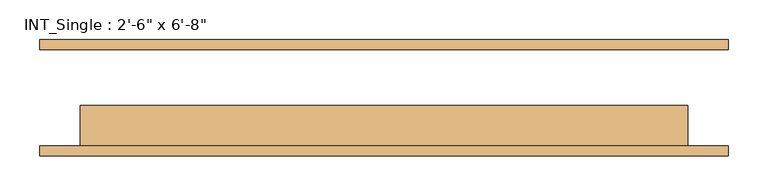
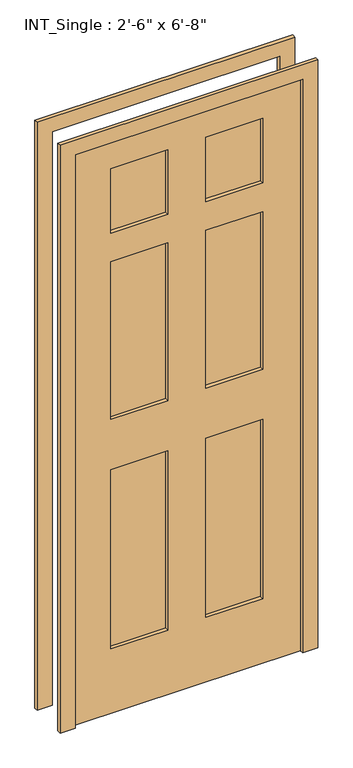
"""IFC4 building model written with IfcOpenShell, lengths in millimetres: door geometry."""

from ifc_helpers import new_model, si_unit, frame, origin, place, context, project, spatial, polyline, outline, extrude, source, transform, mapped, element, save


def door_884c993c(model_context):
    return source(origin(), model_context, "Body", "SweptSolid", [
        extrude(outline(polyline([(0.0, -431.8), (0.0, -381.0), (2032.0, -381.0), (2032.0, 381.0), (0.0, 381.0), (0.0, 431.8), (2082.8, 431.8), (2082.8, -431.8), (0.0, -431.8)])), frame((0.0, 60.325, 0.0), z_axis=(0.0, 1.0, 0.0), x_axis=(0.0, 0.0, 1.0)), (0.0, 0.0, 1.0), 12.7),
        extrude(outline(polyline([(0.0, 431.8), (2082.8, 431.8), (2082.8, -431.8), (0.0, -431.8), (0.0, -381.0), (2032.0, -381.0), (2032.0, 381.0), (0.0, 381.0), (0.0, 431.8)])), frame((0.0, -73.025, 0.0), z_axis=(0.0, 1.0, 0.0), x_axis=(0.0, 0.0, 1.0)), (0.0, 0.0, 1.0), 12.7),
        extrude(outline(polyline([(-63.5, -22.225), (-63.5, -47.625), (-254.0, -47.625), (-254.0, -22.225), (-63.5, -22.225)])), frame((0.0, 0.0, 1701.8), z_axis=(0.0, 0.0, 1.0), x_axis=(1.0, 0.0, 0.0)), (0.0, 0.0, 1.0), 228.6),
        extrude(outline(polyline([(254.0, -22.225), (254.0, -47.625), (63.5, -47.625), (63.5, -22.225), (254.0, -22.225)])), frame((0.0, 0.0, 1701.8), z_axis=(0.0, 0.0, 1.0), x_axis=(1.0, 0.0, 0.0)), (0.0, 0.0, 1.0), 228.6),
        extrude(outline(polyline([(-63.5, -22.225), (-63.5, -47.625), (-254.0, -47.625), (-254.0, -22.225), (-63.5, -22.225)])), frame((0.0, 0.0, 1041.4), z_axis=(0.0, 0.0, 1.0), x_axis=(1.0, 0.0, 0.0)), (0.0, 0.0, 1.0), 558.8),
        extrude(outline(polyline([(254.0, -22.225), (254.0, -47.625), (63.5, -47.625), (63.5, -22.225), (254.0, -22.225)])), frame((0.0, 0.0, 1041.4), z_axis=(0.0, 0.0, 1.0), x_axis=(1.0, 0.0, 0.0)), (0.0, 0.0, 1.0), 558.8),
        extrude(outline(polyline([(-63.5, -22.225), (-63.5, -47.625), (-254.0, -47.625), (-254.0, -22.225), (-63.5, -22.225)])), frame((0.0, 0.0, 228.6), z_axis=(0.0, 0.0, 1.0), x_axis=(1.0, 0.0, 0.0)), (0.0, 0.0, 1.0), 635.0),
        extrude(outline(polyline([(254.0, -22.225), (254.0, -47.625), (63.5, -47.625), (63.5, -22.225), (254.0, -22.225)])), frame((0.0, 0.0, 228.6), z_axis=(0.0, 0.0, 1.0), x_axis=(1.0, 0.0, 0.0)), (0.0, 0.0, 1.0), 635.0),
        extrude(outline(polyline([(2032.0, 381.0), (2032.0, -381.0), (0.0, -381.0), (0.0, 381.0), (2032.0, 381.0)]), holes=[polyline([(1930.4, -63.5), (1701.8, -63.5), (1701.8, -254.0), (1930.4, -254.0), (1930.4, -63.5)]), polyline([(1930.4, 254.0), (1701.8, 254.0), (1701.8, 63.5), (1930.4, 63.5), (1930.4, 254.0)]), polyline([(1600.2, -63.5), (1041.4, -63.5), (1041.4, -254.0), (1600.2, -254.0), (1600.2, -63.5)]), polyline([(1600.2, 254.0), (1041.4, 254.0), (1041.4, 63.5), (1600.2, 63.5), (1600.2, 254.0)]), polyline([(863.6, -63.5), (228.6, -63.5), (228.6, -254.0), (863.6, -254.0), (863.6, -63.5)]), polyline([(863.6, 254.0), (228.6, 254.0), (228.6, 63.5), (863.6, 63.5), (863.6, 254.0)])]), frame((0.0, -60.325, 0.0), z_axis=(0.0, 1.0, 0.0), x_axis=(0.0, 0.0, 1.0)), (0.0, 0.0, 1.0), 50.8),
    ])


if __name__ == "__main__":
    model = new_model("IFC4")
    model_context = context("Model", 3, world=origin())
    ifc_project = project(units=[si_unit("LENGTHUNIT", "METRE", prefix="MILLI")], contexts=[model_context])
    site = spatial("IfcSite", under=ifc_project)
    building = spatial("IfcBuilding", under=site)
    placement = place(None, origin())
    door_shape = door_884c993c(model_context)
    element("IfcDoor", 1, ObjectType="INT_Single : 2'-6\" x 6'-8\"", at=placement, inside=building, context=model_context, shape_type="MappedRepresentation", body=[
        mapped(door_shape, transform((0.0, 0.0, 0.0), x_axis=(1.0, 0.0, 0.0), y_axis=(0.0, 1.0, 0.0), z_axis=(0.0, 0.0, 1.0))),
    ])
    save(model, "model.ifc")
